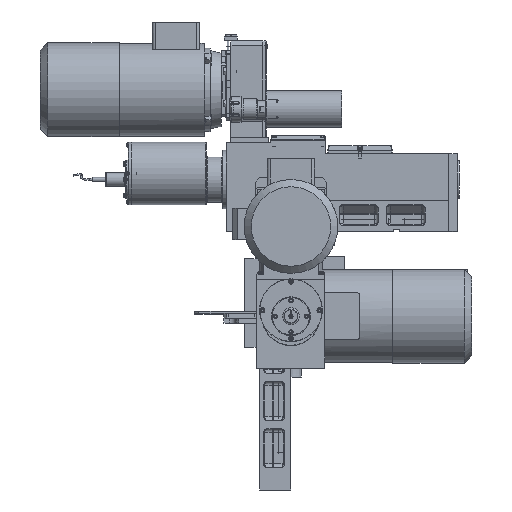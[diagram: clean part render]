
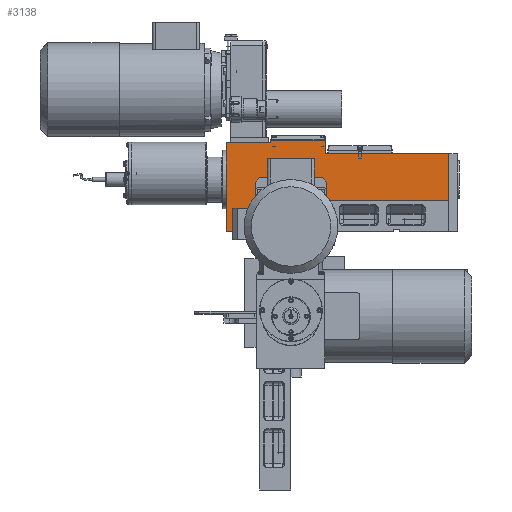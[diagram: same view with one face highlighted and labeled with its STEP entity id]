
A CAD part, front view. The second image highlights one B-rep face of the part: STEP entity #3138.
In plain terms, the highlighted planar face has unit normal (0, -1, 0).
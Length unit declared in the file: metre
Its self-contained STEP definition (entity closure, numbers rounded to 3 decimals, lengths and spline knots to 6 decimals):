
#3138 = ADVANCED_FACE( '', ( #5088 ), #5089, .T. );
#5088 = FACE_OUTER_BOUND( '', #9456, .T. );
#5089 = PLANE( '', #9457 );
#9456 = EDGE_LOOP( '', ( #15553, #15554, #15555, #15556, #15557, #15558, #15559, #15560, #15561, #15562 ) );
#9457 = AXIS2_PLACEMENT_3D( '', #15563, #15564, #15565 );
#15553 = ORIENTED_EDGE( '', *, *, #19710, .T. );
#15554 = ORIENTED_EDGE( '', *, *, #19711, .T. );
#15555 = ORIENTED_EDGE( '', *, *, #19712, .F. );
#15556 = ORIENTED_EDGE( '', *, *, #19713, .T. );
#15557 = ORIENTED_EDGE( '', *, *, #19714, .T. );
#15558 = ORIENTED_EDGE( '', *, *, #19715, .T. );
#15559 = ORIENTED_EDGE( '', *, *, #19716, .T. );
#15560 = ORIENTED_EDGE( '', *, *, #19717, .T. );
#15561 = ORIENTED_EDGE( '', *, *, #19707, .T. );
#15562 = ORIENTED_EDGE( '', *, *, #19706, .T. );
#15563 = CARTESIAN_POINT( '', ( 0.337, -0.003889, 0. ) );
#15564 = DIRECTION( '', ( 0., -1., 0. ) );
#15565 = DIRECTION( '', ( 1., 0., 0. ) );
#19706 = EDGE_CURVE( '', #22708, #22712, #22714, .T. );
#19707 = EDGE_CURVE( '', #22715, #22708, #22716, .T. );
#19710 = EDGE_CURVE( '', #22712, #22720, #22721, .T. );
#19711 = EDGE_CURVE( '', #22720, #22722, #22723, .T. );
#19712 = EDGE_CURVE( '', #22724, #22722, #22725, .T. );
#19713 = EDGE_CURVE( '', #22724, #22726, #22727, .T. );
#19714 = EDGE_CURVE( '', #22726, #22728, #22729, .T. );
#19715 = EDGE_CURVE( '', #22728, #22730, #22731, .T. );
#19716 = EDGE_CURVE( '', #22730, #22732, #22733, .T. );
#19717 = EDGE_CURVE( '', #22732, #22715, #22734, .T. );
#22708 = VERTEX_POINT( '', #29027 );
#22712 = VERTEX_POINT( '', #29033 );
#22714 = LINE( '', #29036, #29037 );
#22715 = VERTEX_POINT( '', #29038 );
#22716 = LINE( '', #29039, #29040 );
#22720 = VERTEX_POINT( '', #29046 );
#22721 = LINE( '', #29047, #29048 );
#22722 = VERTEX_POINT( '', #29049 );
#22723 = LINE( '', #29050, #29051 );
#22724 = VERTEX_POINT( '', #29052 );
#22725 = LINE( '', #29053, #29054 );
#22726 = VERTEX_POINT( '', #29055 );
#22727 = LINE( '', #29056, #29057 );
#22728 = VERTEX_POINT( '', #29058 );
#22729 = LINE( '', #29059, #29060 );
#22730 = VERTEX_POINT( '', #29061 );
#22731 = LINE( '', #29062, #29063 );
#22732 = VERTEX_POINT( '', #29064 );
#22733 = LINE( '', #29065, #29066 );
#22734 = LINE( '', #29067, #29068 );
#29027 = CARTESIAN_POINT( '', ( -0.003, -0.003889, 0.115 ) );
#29033 = CARTESIAN_POINT( '', ( -0.003, -0.003889, 0.11 ) );
#29036 = CARTESIAN_POINT( '', ( -0.003, -0.003889, 0.058735 ) );
#29037 = VECTOR( '', #32904, 1. );
#29038 = CARTESIAN_POINT( '', ( 0.102, -0.003889, 0.115 ) );
#29039 = CARTESIAN_POINT( '', ( -0.005, -0.003889, 0.115 ) );
#29040 = VECTOR( '', #32905, 1. );
#29046 = CARTESIAN_POINT( '', ( -0.088, -0.003889, 0.11 ) );
#29047 = CARTESIAN_POINT( '', ( 0.14575, -0.003889, 0.11 ) );
#29048 = VECTOR( '', #32908, 1. );
#29049 = CARTESIAN_POINT( '', ( -0.088, -0.003889, -0.059 ) );
#29050 = CARTESIAN_POINT( '', ( -0.088, -0.003889, -0.059 ) );
#29051 = VECTOR( '', #32909, 1. );
#29052 = CARTESIAN_POINT( '', ( -0.005, -0.003889, -0.059 ) );
#29053 = CARTESIAN_POINT( '', ( -0.005, -0.003889, -0.059 ) );
#29054 = VECTOR( '', #32910, 1. );
#29055 = CARTESIAN_POINT( '', ( -0.005, -0.003889, 0. ) );
#29056 = CARTESIAN_POINT( '', ( -0.005, -0.003889, -0.059 ) );
#29057 = VECTOR( '', #32911, 1. );
#29058 = CARTESIAN_POINT( '', ( 0.337, -0.003889, 0. ) );
#29059 = CARTESIAN_POINT( '', ( -0.005, -0.003889, 0. ) );
#29060 = VECTOR( '', #32912, 1. );
#29061 = CARTESIAN_POINT( '', ( 0.337, -0.003889, 0.09 ) );
#29062 = CARTESIAN_POINT( '', ( 0.337, -0.003889, 0. ) );
#29063 = VECTOR( '', #32913, 1. );
#29064 = CARTESIAN_POINT( '', ( 0.102, -0.003889, 0.09 ) );
#29065 = CARTESIAN_POINT( '', ( -0.005, -0.003889, 0.09 ) );
#29066 = VECTOR( '', #32914, 1. );
#29067 = CARTESIAN_POINT( '', ( 0.102, -0.003889, 0.09 ) );
#29068 = VECTOR( '', #32915, 1. );
#32904 = DIRECTION( '', ( 0., 0., -1. ) );
#32905 = DIRECTION( '', ( -1., 0., 0. ) );
#32908 = DIRECTION( '', ( -1., 0., 0. ) );
#32909 = DIRECTION( '', ( 0., 0., -1. ) );
#32910 = DIRECTION( '', ( -1., 0., 0. ) );
#32911 = DIRECTION( '', ( 0., 0., 1. ) );
#32912 = DIRECTION( '', ( 1., 0., 0. ) );
#32913 = DIRECTION( '', ( 0., 0., 1. ) );
#32914 = DIRECTION( '', ( -1., 0., 0. ) );
#32915 = DIRECTION( '', ( 0., 0., 1. ) );
